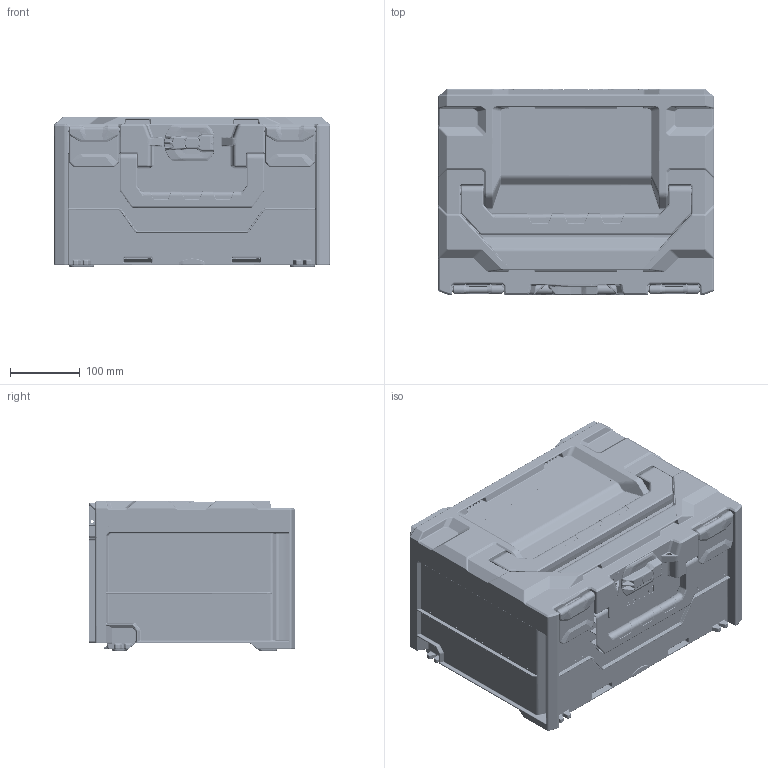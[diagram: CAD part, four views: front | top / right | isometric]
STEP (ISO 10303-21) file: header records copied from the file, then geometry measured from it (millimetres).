
FILE_DESCRIPTION(/* description */ (''),/* implementation_level */ '2;1');
FILE_NAME(/* name */ 'metaBOX_215_Neutral.stp',/* time_stamp */ '2020-06-16T16:02:07+02:00',/* author */ (''),/* organization */ (''),/* preprocessor_version */ 'ST-DEVELOPER v16.7',/* originating_system */ 'SIEMENS PLM Software NX 12.0',/* authorisation */ '');
FILE_SCHEMA (('AUTOMOTIVE_DESIGN { 1 0 10303 214 3 1 1 1 }'));
Products named in the file (1): BU740C6CC2yd5e
Bounding box: 396 x 296.1 x 215 mm (x, y, z)
Volume: 1715397.6 mm3; surface area: 1404466.6 mm2
Topology: 7 solids, 7 shells, 13608 faces, 33457 edges, 19318 vertices
Faces by surface type: bspline 5309, cylinder 4523, plane 2895, sphere 417, cone 221, torus 197, extrusion 46
Full cylindrical faces by diameter (mm): 4 x11
Entity records: 527078 total; most frequent: CARTESIAN_POINT 240460, ORIENTED_EDGE 65486, DIRECTION 53471, EDGE_CURVE 32743, AXIS2_PLACEMENT_3D 20909, VERTEX_POINT 19286, EDGE_LOOP 13859, ADVANCED_FACE 13604
